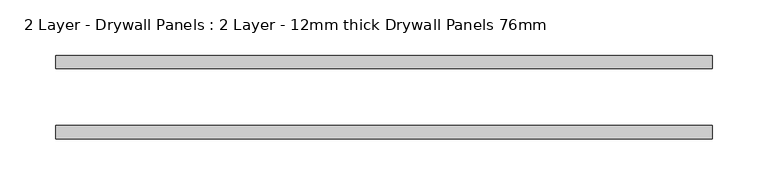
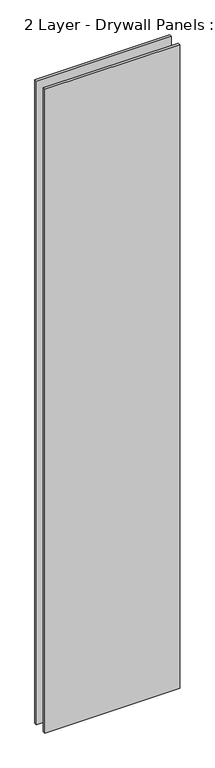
"""IFC4 building model written with IfcOpenShell, lengths in millimetres: plate geometry, 2 Layer - Drywall Panels : 2 Layer - 12mm thick Drywall Panels 76mm."""

from ifc_helpers import new_model, si_unit, origin, origin_with_axes, place, context, project, spatial, polyline, outline, extrude, source, transform, mapped, element, save


def plate_2_layer_drywall_panels_2_layer_12mm_thick_drywall_85e85d50(model_context):
    return source(origin(), model_context, "Body", "SweptSolid", [
        extrude(outline(polyline([(295.2500001, 25.5), (-295.2500001, 25.5), (-295.2500001, 37.5), (295.2500001, 37.5), (295.2500001, 25.5)])), origin_with_axes(), (0.0, 0.0, 1.0), 2979.4),
        extrude(outline(polyline([(295.2500001, -25.5), (295.2500001, -37.5), (-295.2500001, -37.5), (-295.2500001, -25.5), (295.2500001, -25.5)])), origin_with_axes(), (0.0, 0.0, 1.0), 2979.4),
    ])


if __name__ == "__main__":
    model = new_model("IFC4")
    model_context = context("Model", 3, world=origin())
    ifc_project = project(units=[si_unit("LENGTHUNIT", "METRE", prefix="MILLI")], contexts=[model_context])
    site = spatial("IfcSite", under=ifc_project)
    building = spatial("IfcBuilding", under=site)
    placement = place(None, origin())
    plate_2_layer_drywall_panels_2_layer_12mm_thick_drywall_shape = plate_2_layer_drywall_panels_2_layer_12mm_thick_drywall_85e85d50(model_context)
    element("IfcPlate", 1, ObjectType="2 Layer - Drywall Panels : 2 Layer - 12mm thick Drywall Panels 76mm", at=placement, inside=building, context=model_context, shape_type="MappedRepresentation", body=[
        mapped(plate_2_layer_drywall_panels_2_layer_12mm_thick_drywall_shape, transform((0.0, 0.0, 0.0), x_axis=(1.0, 0.0, 0.0), y_axis=(0.0, 1.0, 0.0), z_axis=(0.0, 0.0, 1.0))),
    ])
    save(model, "model.ifc")
